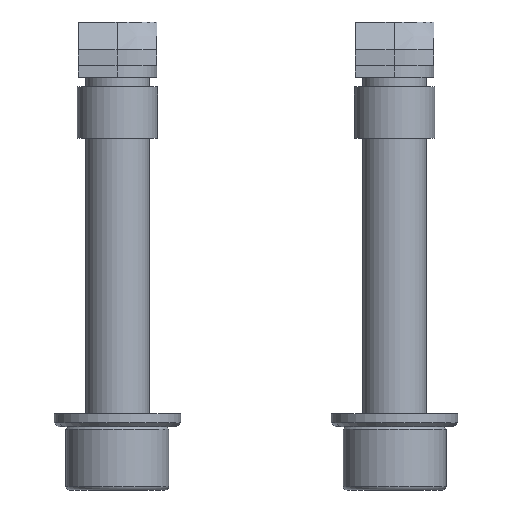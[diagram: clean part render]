
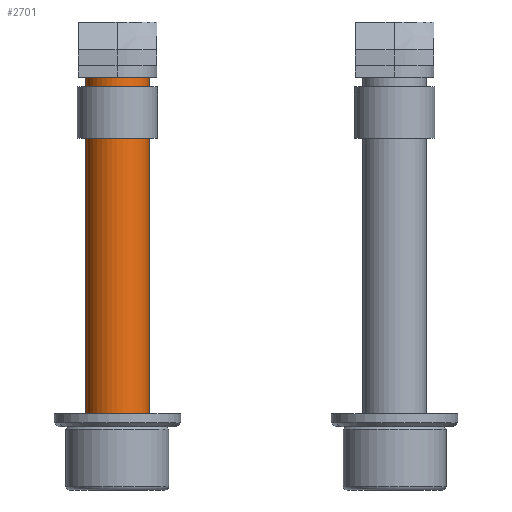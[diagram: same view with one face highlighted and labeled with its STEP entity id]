
A CAD part, front view. The second image highlights one B-rep face of the part: STEP entity #2701.
In plain terms, the highlighted cylindrical face has radius 4 mm (diameter 8 mm), a partial arc.
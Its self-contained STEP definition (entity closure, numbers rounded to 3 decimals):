
#115 = EDGE_CURVE ( 'NONE', #3252, #1019, #3357, .T. ) ;
#116 = VECTOR ( 'NONE', #3323, 1000. ) ;
#129 = ORIENTED_EDGE ( 'NONE', *, *, #115, .F. ) ;
#378 = DIRECTION ( 'NONE',  ( 0., 0., -1. ) ) ;
#414 = VERTEX_POINT ( 'NONE', #3358 ) ;
#651 = LINE ( 'NONE', #3405, #3413 ) ;
#775 = CARTESIAN_POINT ( 'NONE',  ( 0., 0., 44.1 ) ) ;
#872 = LINE ( 'NONE', #3245, #116 ) ;
#878 = ORIENTED_EDGE ( 'NONE', *, *, #1676, .T. ) ;
#1019 = VERTEX_POINT ( 'NONE', #1607 ) ;
#1379 = DIRECTION ( 'NONE',  ( -1., 0., 0. ) ) ;
#1606 = CYLINDRICAL_SURFACE ( 'NONE', #2542, 4. ) ;
#1607 = CARTESIAN_POINT ( 'NONE',  ( -4., 0., 0. ) ) ;
#1610 = EDGE_LOOP ( 'NONE', ( #2454, #3363, #878, #129 ) ) ;
#1622 = CARTESIAN_POINT ( 'NONE',  ( 0., 0., 50. ) ) ;
#1676 = EDGE_CURVE ( 'NONE', #3200, #1019, #651, .T. ) ;
#1729 = CARTESIAN_POINT ( 'NONE',  ( 0., 0., 0. ) ) ;
#1800 = DIRECTION ( 'NONE',  ( 0., 0., -1. ) ) ;
#1887 = DIRECTION ( 'NONE',  ( 0., 0., -1. ) ) ;
#1994 = AXIS2_PLACEMENT_3D ( 'NONE', #1729, #1800, #1379 ) ;
#2043 = DIRECTION ( 'NONE',  ( -1., 0., 0. ) ) ;
#2425 = DIRECTION ( 'NONE',  ( 1., 0., 0. ) ) ;
#2428 = FACE_OUTER_BOUND ( 'NONE', #1610, .T. ) ;
#2454 = ORIENTED_EDGE ( 'NONE', *, *, #3360, .F. ) ;
#2538 = CARTESIAN_POINT ( 'NONE',  ( -4., 0., 44.1 ) ) ;
#2542 = AXIS2_PLACEMENT_3D ( 'NONE', #1622, #1887, #2043 ) ;
#2701 = ADVANCED_FACE ( 'NONE', ( #2428 ), #1606, .T. ) ;
#2778 = CARTESIAN_POINT ( 'NONE',  ( 4., 0., 0. ) ) ;
#2859 = AXIS2_PLACEMENT_3D ( 'NONE', #775, #2887, #2425 ) ;
#2887 = DIRECTION ( 'NONE',  ( 0., 0., -1. ) ) ;
#2940 = CIRCLE ( 'NONE', #2859, 4. ) ;
#3200 = VERTEX_POINT ( 'NONE', #2538 ) ;
#3245 = CARTESIAN_POINT ( 'NONE',  ( 4., 0., 50. ) ) ;
#3252 = VERTEX_POINT ( 'NONE', #2778 ) ;
#3323 = DIRECTION ( 'NONE',  ( 0., 0., -1. ) ) ;
#3357 = CIRCLE ( 'NONE', #1994, 4. ) ;
#3358 = CARTESIAN_POINT ( 'NONE',  ( 4., 0., 44.1 ) ) ;
#3360 = EDGE_CURVE ( 'NONE', #414, #3252, #872, .T. ) ;
#3363 = ORIENTED_EDGE ( 'NONE', *, *, #3411, .T. ) ;
#3405 = CARTESIAN_POINT ( 'NONE',  ( -4., 0., 50. ) ) ;
#3411 = EDGE_CURVE ( 'NONE', #414, #3200, #2940, .T. ) ;
#3413 = VECTOR ( 'NONE', #378, 1000. ) ;
